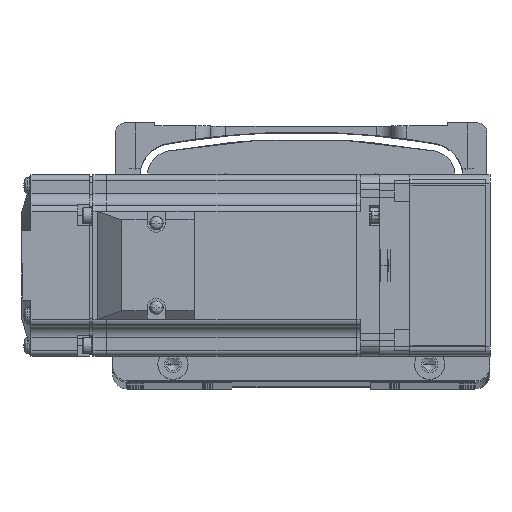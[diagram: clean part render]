
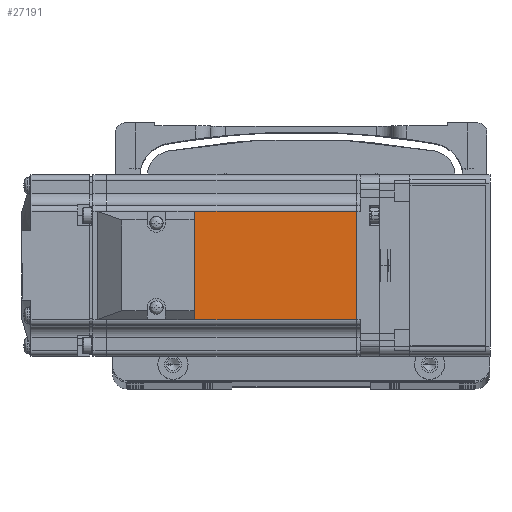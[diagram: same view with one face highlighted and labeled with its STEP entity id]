
A CAD part, top view. The second image highlights one B-rep face of the part: STEP entity #27191.
In plain terms, the highlighted planar face has unit normal (0, 0, 1) as drawn and (0, 1, 0) by its records, which use the part's own axes.
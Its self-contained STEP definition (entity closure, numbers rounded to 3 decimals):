
#191 = VERTEX_POINT ( 'NONE', #48803 ) ;
#2041 = DIRECTION ( 'NONE',  ( 0., 1., 0. ) ) ;
#2649 = CARTESIAN_POINT ( 'NONE',  ( -7.75, 30., 0. ) ) ;
#2653 = LINE ( 'NONE', #2649, #68965 ) ;
#6819 = EDGE_CURVE ( 'NONE', #10417, #191, #85643, .T. ) ;
#7057 = VECTOR ( 'NONE', #58251, 1000. ) ;
#10417 = VERTEX_POINT ( 'NONE', #27124 ) ;
#14976 = VERTEX_POINT ( 'NONE', #78768 ) ;
#15069 = PLANE ( 'NONE',  #79520 ) ;
#15227 = VECTOR ( 'NONE', #66497, 1000. ) ;
#15625 = VERTEX_POINT ( 'NONE', #22806 ) ;
#15674 = DIRECTION ( 'NONE',  ( 0., 0., 1. ) ) ;
#20333 = EDGE_CURVE ( 'NONE', #191, #15625, #57788, .T. ) ;
#22806 = CARTESIAN_POINT ( 'NONE',  ( -7.75, 30., 18. ) ) ;
#24163 = VECTOR ( 'NONE', #30979, 1000. ) ;
#25576 = EDGE_CURVE ( 'NONE', #14976, #15625, #2653, .T. ) ;
#27124 = CARTESIAN_POINT ( 'NONE',  ( -90.45, 30., -18. ) ) ;
#27191 = ADVANCED_FACE ( 'NONE', ( #31123 ), #15069, .T. ) ;
#30979 = DIRECTION ( 'NONE',  ( -1., 0., 0. ) ) ;
#31123 = FACE_OUTER_BOUND ( 'NONE', #80993, .T. ) ;
#41677 = CARTESIAN_POINT ( 'NONE',  ( -6.5, 30., 25. ) ) ;
#41742 = LINE ( 'NONE', #70673, #24163 ) ;
#43115 = ORIENTED_EDGE ( 'NONE', *, *, #6819, .T. ) ;
#45186 = CARTESIAN_POINT ( 'NONE',  ( -6.5, 30., 18. ) ) ;
#46327 = ORIENTED_EDGE ( 'NONE', *, *, #20333, .T. ) ;
#48379 = DIRECTION ( 'NONE',  ( 0., 0., 1. ) ) ;
#48803 = CARTESIAN_POINT ( 'NONE',  ( -90.45, 30., 18. ) ) ;
#53124 = CARTESIAN_POINT ( 'NONE',  ( -90.45, 30., 0. ) ) ;
#57788 = LINE ( 'NONE', #45186, #7057 ) ;
#58251 = DIRECTION ( 'NONE',  ( 1., 0., 0. ) ) ;
#65155 = ORIENTED_EDGE ( 'NONE', *, *, #25576, .F. ) ;
#66497 = DIRECTION ( 'NONE',  ( 0., 0., 1. ) ) ;
#68965 = VECTOR ( 'NONE', #15674, 1000. ) ;
#70673 = CARTESIAN_POINT ( 'NONE',  ( -6.5, 30., -18. ) ) ;
#73623 = EDGE_CURVE ( 'NONE', #14976, #10417, #41742, .T. ) ;
#78768 = CARTESIAN_POINT ( 'NONE',  ( -7.75, 30., -18. ) ) ;
#79520 = AXIS2_PLACEMENT_3D ( 'NONE', #41677, #2041, #48379 ) ;
#80993 = EDGE_LOOP ( 'NONE', ( #65155, #81051, #43115, #46327 ) ) ;
#81051 = ORIENTED_EDGE ( 'NONE', *, *, #73623, .T. ) ;
#85643 = LINE ( 'NONE', #53124, #15227 ) ;
